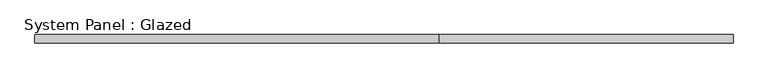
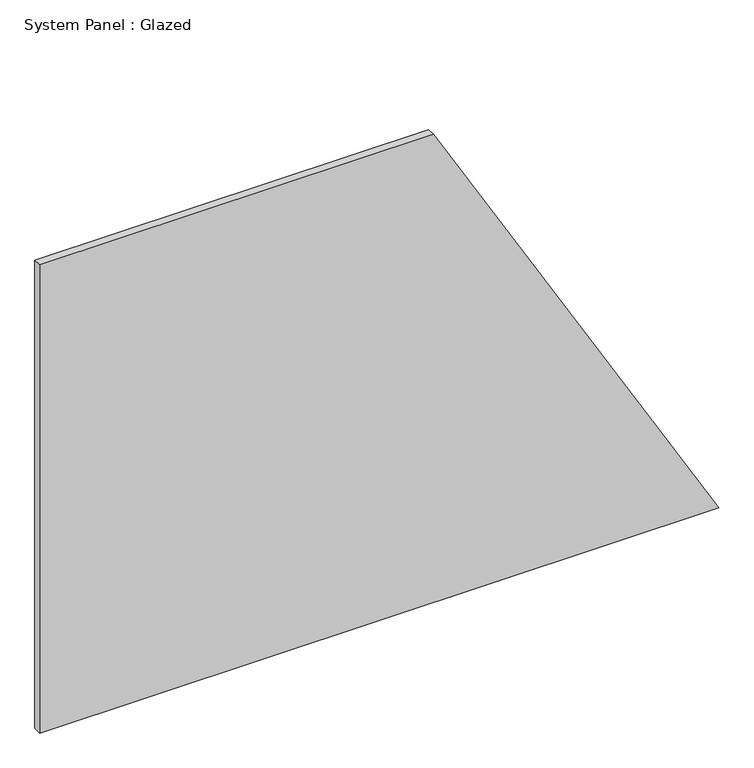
"""IFC4 building model written with IfcOpenShell, lengths in millimetres: plate geometry, System Panel : Glazed."""

from ifc_helpers import new_model, si_unit, frame, origin, place, context, project, spatial, polyline, outline, extrude, source, transform, mapped, element, save


def system_panel_glazed_697c0dd3(model_context):
    return source(origin(), model_context, "Body", "SweptSolid", [
        extrude(outline(polyline([(0.0, -1046.1692366), (0.0, 1046.1692366), (1524.0, 166.2874264), (1524.0, -1046.1692366), (0.0, -1046.1692366)])), frame((0.0, 19.05, 0.0), z_axis=(0.0, 1.0, 0.0), x_axis=(0.0, 0.0, 1.0)), (0.0, 0.0, 1.0), 25.4),
    ])


if __name__ == "__main__":
    model = new_model("IFC4")
    model_context = context("Model", 3, world=origin())
    ifc_project = project(units=[si_unit("LENGTHUNIT", "METRE", prefix="MILLI")], contexts=[model_context])
    site = spatial("IfcSite", under=ifc_project)
    building = spatial("IfcBuilding", under=site)
    placement = place(None, origin())
    system_panel_glazed_shape = system_panel_glazed_697c0dd3(model_context)
    element("IfcPlate", 1, ObjectType="System Panel : Glazed", at=placement, inside=building, context=model_context, shape_type="MappedRepresentation", body=[
        mapped(system_panel_glazed_shape, transform((0.0, 0.0, 0.0), x_axis=(1.0, 0.0, 0.0), y_axis=(0.0, 1.0, 0.0), z_axis=(0.0, 0.0, 1.0))),
    ])
    save(model, "model.ifc")
